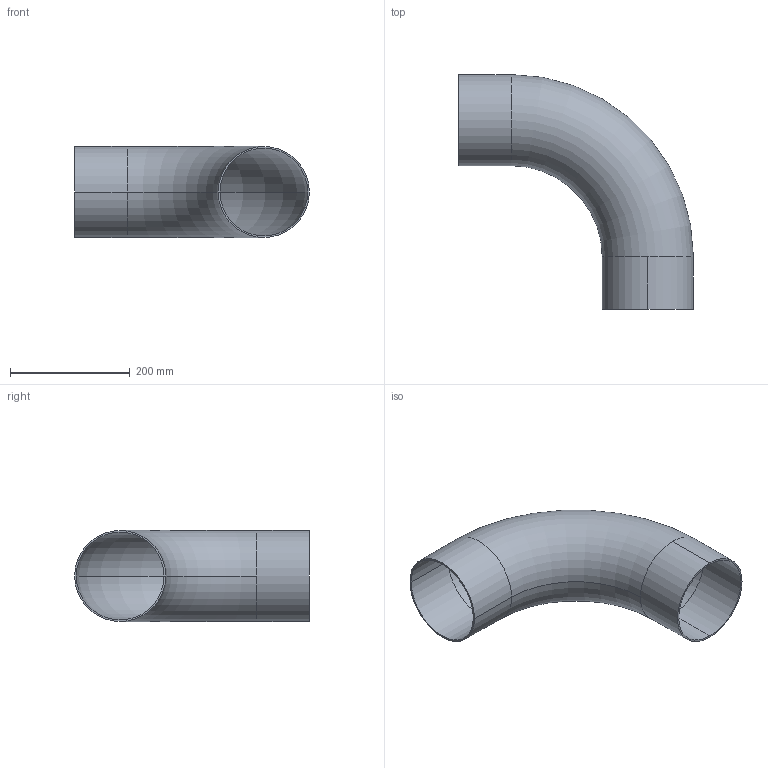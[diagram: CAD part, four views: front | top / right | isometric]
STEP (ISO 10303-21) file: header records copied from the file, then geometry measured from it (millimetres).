
FILE_DESCRIPTION (( 'STEP AP214' ), '1' );
FILE_NAME ('E2S6.0.STEP', '2025-10-27T14:12:10', ( '' ), ( '' ), 'SwSTEP 2.0', 'SolidWorks 2023', '' );
FILE_SCHEMA (( 'AUTOMOTIVE_DESIGN' ));
Length unit declared in the file: inch
Products named in the file (1): E2S6.0
Bounding box: 392.68 x 392.68 x 152.4 mm (x, y, z)
Volume: 696091.7 mm3; surface area: 505450.4 mm2
Topology: 1 solids, 1 shells, 14 faces, 32 edges, 20 vertices
Faces by surface type: cylinder 8, torus 4, plane 2
Entity records: 439 total; most frequent: DIRECTION 86, CARTESIAN_POINT 67, ORIENTED_EDGE 64, AXIS2_PLACEMENT_3D 39, EDGE_CURVE 32, CIRCLE 24, VERTEX_POINT 20, EDGE_LOOP 16
